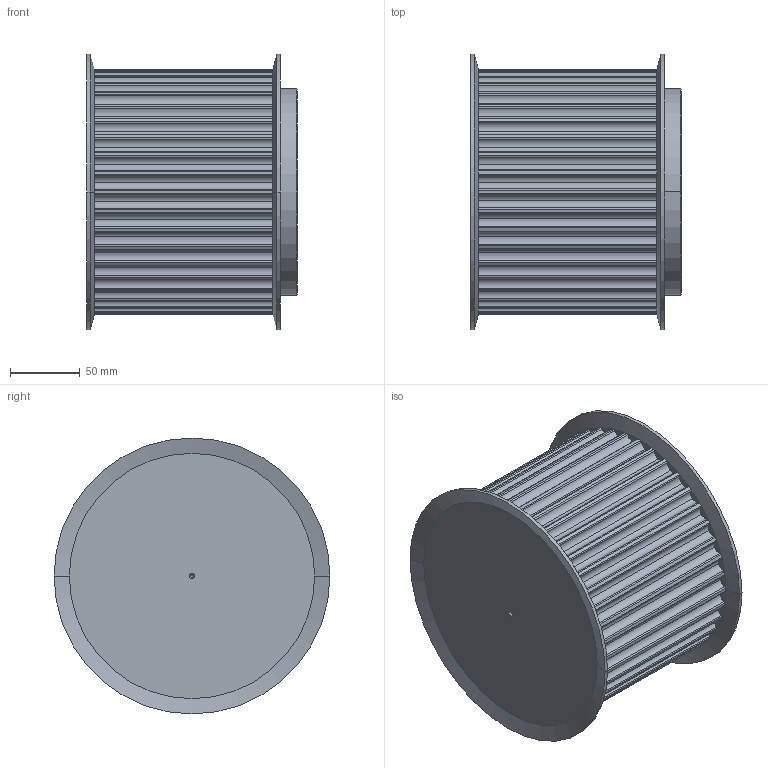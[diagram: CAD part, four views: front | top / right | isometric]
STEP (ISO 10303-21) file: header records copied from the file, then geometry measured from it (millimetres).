
FILE_DESCRIPTION(('STEP AP214'),'1');
FILE_NAME('40_-_14_m_115.stp','2018-09-28T13:27:03',('TraceParts'),('TraceParts S.A.'),'Spatial InterOp 3D',' ',' ');
FILE_SCHEMA(('automotive_design'));
Length unit declared in the file: millimetre
Products named in the file (1): 40_-_14_m_115
Bounding box: 150.95 x 198 x 198 mm (x, y, z)
Volume: 3326413.9 mm3; surface area: 180861.7 mm2
Topology: 1 solids, 1 shells, 233 faces, 668 edges, 438 vertices
Faces by surface type: cylinder 210, cone 18, plane 5
Entity records: 7857 total; most frequent: DIRECTION 1568, CARTESIAN_POINT 1336, ORIENTED_EDGE 1328, AXIS2_PLACEMENT_3D 670, EDGE_CURVE 664, VERTEX_POINT 438, CIRCLE 436, EDGE_LOOP 238
